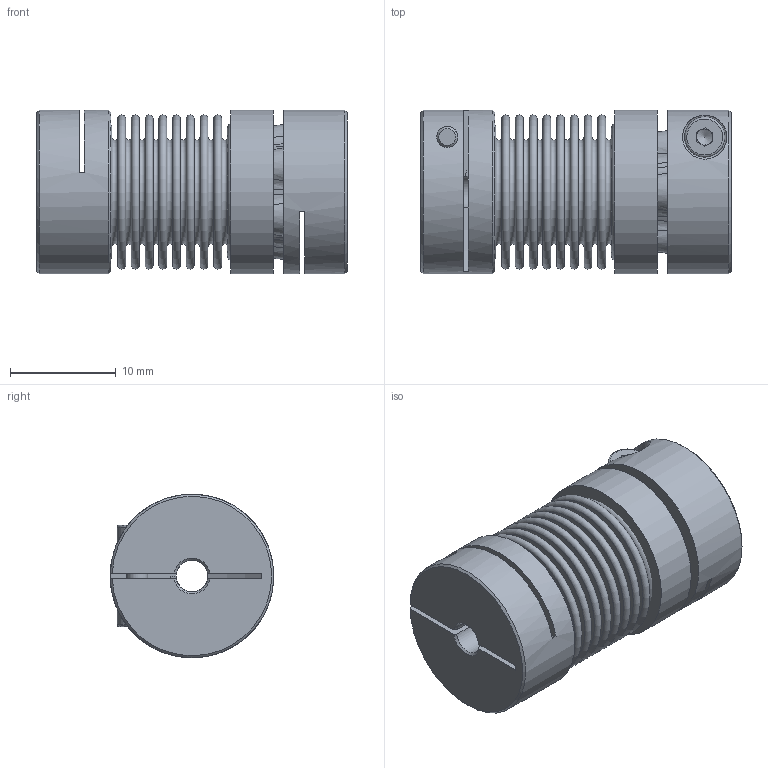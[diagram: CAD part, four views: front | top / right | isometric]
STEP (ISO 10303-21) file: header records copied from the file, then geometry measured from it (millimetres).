
FILE_DESCRIPTION( ( 'KBE1/14 - N7H8 - N14H7 - 98 Sh' ), '1' );
FILE_NAME( 'K:/Konstruktion/Fertigungszeichnungen/Metallbalgkupplung/KB2P/5-10/KB2P-5-29.stp', '14.12.2015', ( 'KBK-Antriebstechnik' ), ( 'KBK-Antriebstechnik' ), 'PSStep 16.0.42', 'Solid Edge St6', ' ' );
FILE_SCHEMA( ( 'AUTOMOTIVE_DESIGN { 1 0 10303 214 1 1 1 1 }' ) );
Length unit declared in the file: millimetre
Products named in the file (6): Assem1; Stecknabe KB2P-10; Socket Head Cap Screw_DIN_DIN 912 M2 x 8 --- 8N_5; KN5_Standard_2; BM5_Standard_1; Balgaufnahme KB2P-10_für Step
Assembly tree (6 placements, depth 2):
  Assem1
    Stecknabe KB2P-10
    Socket Head Cap Screw_DIN_DIN 912 M2 x 8 --- 8N_5  x2
    KN5_Standard_2
    BM5_Standard_1
    Balgaufnahme KB2P-10_für Step
Bounding box: 29.38 x 15.5 x 15.5 mm (x, y, z)
Volume: 3210.5 mm3; surface area: 6896.8 mm2
Topology: 6 solids, 6 shells, 212 faces, 462 edges, 301 vertices
Faces by surface type: plane 91, cone 54, torus 43, cylinder 24
Full cylindrical faces by diameter (mm): 1.567 x1, 2 x3, 2.2 x2, 3 x2, 3.8 x2, 12.9 x2, 13.1 x2, 15.5 x3
Entity records: 6863 total; most frequent: CARTESIAN_POINT 1074, DIRECTION 941, ORIENTED_EDGE 694, AXIS2_PLACEMENT_3D 422, EDGE_CURVE 347, EDGE_LOOP 305, VERTEX_POINT 281, FACE_OUTER_BOUND 247
